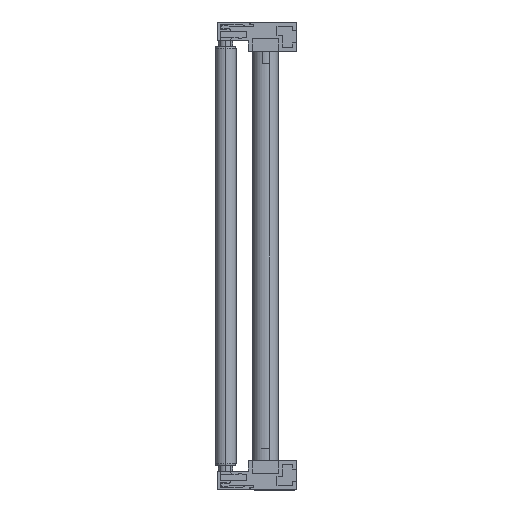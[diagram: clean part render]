
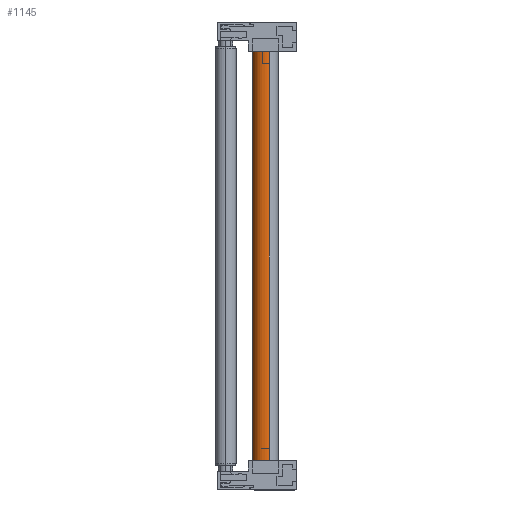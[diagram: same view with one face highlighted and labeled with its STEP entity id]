
A CAD part, left-side view. The second image highlights one B-rep face of the part: STEP entity #1145.
In plain terms, the highlighted cylindrical face has radius 6 mm (diameter 12 mm), a partial arc.
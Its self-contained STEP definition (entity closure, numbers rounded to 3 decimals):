
#484 = EDGE_CURVE ( 'NONE', #10866, #16705, #12384, .T. ) ;
#1145 = ADVANCED_FACE ( 'NONE', ( #14111 ), #20482, .T. ) ;
#1239 = AXIS2_PLACEMENT_3D ( 'NONE', #4621, #18351, #21050 ) ;
#1602 = VERTEX_POINT ( 'NONE', #3918 ) ;
#2644 = DIRECTION ( 'NONE',  ( -1., 0., 0. ) ) ;
#3014 = CARTESIAN_POINT ( 'NONE',  ( 207., 0., 0. ) ) ;
#3918 = CARTESIAN_POINT ( 'NONE',  ( 207., 0., 6. ) ) ;
#4272 = CARTESIAN_POINT ( 'NONE',  ( -8.967, 0., 0. ) ) ;
#4621 = CARTESIAN_POINT ( 'NONE',  ( 0., 0., 0. ) ) ;
#4746 = ORIENTED_EDGE ( 'NONE', *, *, #9881, .F. ) ;
#4968 = VERTEX_POINT ( 'NONE', #8266 ) ;
#5243 = EDGE_LOOP ( 'NONE', ( #12705, #9519, #4746, #10739 ) ) ;
#6587 = DIRECTION ( 'NONE',  ( 0., 0., 1. ) ) ;
#7333 = LINE ( 'NONE', #17602, #9522 ) ;
#7354 = CARTESIAN_POINT ( 'NONE',  ( 207., 0., -6. ) ) ;
#8266 = CARTESIAN_POINT ( 'NONE',  ( 0., 0., 6. ) ) ;
#9519 = ORIENTED_EDGE ( 'NONE', *, *, #484, .T. ) ;
#9522 = VECTOR ( 'NONE', #2644, 1000. ) ;
#9881 = EDGE_CURVE ( 'NONE', #4968, #16705, #11230, .T. ) ;
#10045 = CIRCLE ( 'NONE', #12890, 6. ) ;
#10739 = ORIENTED_EDGE ( 'NONE', *, *, #12999, .F. ) ;
#10866 = VERTEX_POINT ( 'NONE', #7354 ) ;
#11230 = CIRCLE ( 'NONE', #1239, 6. ) ;
#12384 = LINE ( 'NONE', #17384, #13163 ) ;
#12705 = ORIENTED_EDGE ( 'NONE', *, *, #21038, .T. ) ;
#12890 = AXIS2_PLACEMENT_3D ( 'NONE', #3014, #13065, #6587 ) ;
#12999 = EDGE_CURVE ( 'NONE', #1602, #4968, #7333, .T. ) ;
#13065 = DIRECTION ( 'NONE',  ( -1., 0., 0. ) ) ;
#13163 = VECTOR ( 'NONE', #17282, 1000. ) ;
#14111 = FACE_OUTER_BOUND ( 'NONE', #5243, .T. ) ;
#15780 = DIRECTION ( 'NONE',  ( 0., 0., 1. ) ) ;
#16705 = VERTEX_POINT ( 'NONE', #19052 ) ;
#17282 = DIRECTION ( 'NONE',  ( -1., 0., 0. ) ) ;
#17384 = CARTESIAN_POINT ( 'NONE',  ( -8.967, 0., -6. ) ) ;
#17602 = CARTESIAN_POINT ( 'NONE',  ( -8.967, 0., 6. ) ) ;
#18153 = AXIS2_PLACEMENT_3D ( 'NONE', #4272, #21112, #15780 ) ;
#18351 = DIRECTION ( 'NONE',  ( -1., 0., 0. ) ) ;
#19052 = CARTESIAN_POINT ( 'NONE',  ( 0., 0., -6. ) ) ;
#20482 = CYLINDRICAL_SURFACE ( 'NONE', #18153, 6. ) ;
#21038 = EDGE_CURVE ( 'NONE', #1602, #10866, #10045, .T. ) ;
#21050 = DIRECTION ( 'NONE',  ( 0., 0., 1. ) ) ;
#21112 = DIRECTION ( 'NONE',  ( -1., 0., 0. ) ) ;
